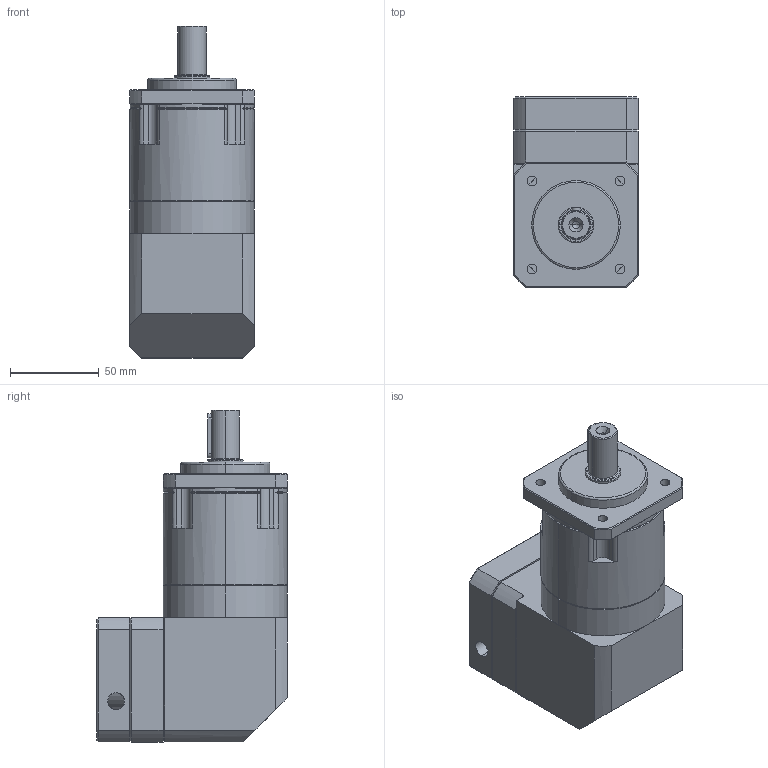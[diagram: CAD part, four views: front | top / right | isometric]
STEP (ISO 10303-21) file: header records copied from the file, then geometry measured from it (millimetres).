
FILE_DESCRIPTION (( 'STEP AP214' ), '1' );
FILE_NAME ('WPBF70-L2-14×30-50-70M5 三维外形图.STEP', '2021-08-10T23:57:28', ( 'XJJ' ), ( '' ), 'SwSTEP 2.0', 'SolidWorks 2016', '' );
FILE_SCHEMA (( 'AUTOMOTIVE_DESIGN' ));
Length unit declared in the file: millimetre
Products named in the file (3): hexagon socket head cap screws gb_GB_FASTENER_SCREWS_HSHCS M5X16-N; WPBF70-L2-14×30-50-70M5 三维外形图
Assembly tree (2 placements, depth 2):
  WPBF70-L2-14×30-50-70M5 三维外形图
    WPBF70-L2-14×30-50-70M5 三维外形图
    hexagon socket head cap screws gb_GB_FASTENER_SCREWS_HSHCS M5X16-N
Bounding box: 70 x 107.5 x 187 mm (x, y, z)
Volume: 796270.6 mm3; surface area: 71292.1 mm2
Topology: 2 solids, 2 shells, 255 faces, 622 edges, 377 vertices
Faces by surface type: plane 100, cylinder 94, cone 48, torus 13
Entity records: 10099 total; most frequent: CARTESIAN_POINT 1860, DIRECTION 1308, ORIENTED_EDGE 1220, EDGE_CURVE 610, AXIS2_PLACEMENT_3D 515, VERTEX_POINT 377, EDGE_LOOP 289, LINE 278
